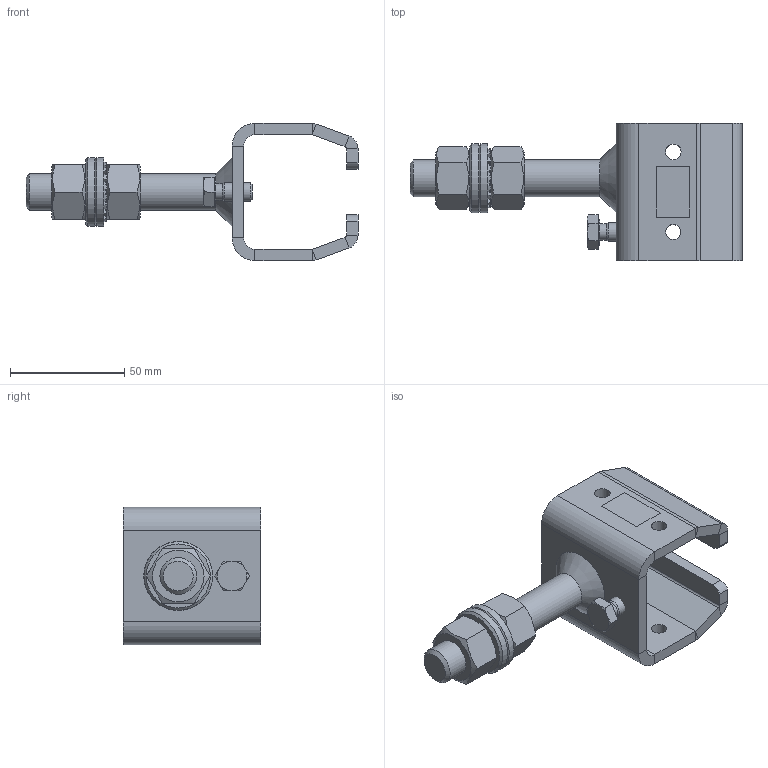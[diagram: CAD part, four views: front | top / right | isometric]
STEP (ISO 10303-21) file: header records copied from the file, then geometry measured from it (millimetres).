
FILE_DESCRIPTION(/* description */ ('Muffe H/S Nr.2'),/* implementation_level */ '2;1');
FILE_NAME(/* name */ 'Q:\sge-ma\Produktmanagement-STB\STB\Workspace\stp\010335520.stp',/* time_stamp */ '2015-04-23T07:44:06+02:00',/* author */ ('avschreier'),/* organization */ (''),/* preprocessor_version */ 'ST-DEVELOPER v15.6',/* originating_system */ 'Autodesk Inventor 2015',/* authorisation */ '');
FILE_SCHEMA (('CONFIG_CONTROL_DESIGN'));
Length unit declared in the file: millimetre
Products named in the file (8): 010335520_Schweißnähte; 000302234; 335140020; DIN_EN_ISO_4017-M8x16_en; DIN_6798-A_17_en; DIN_EN_ISO_4032-M16_en; DIN_6916-17_en; 010335520
Bounding box: 145 x 60 x 60 mm (x, y, z)
Volume: 85546.4 mm3; surface area: 38890 mm2
Topology: 9 solids, 9 shells, 252 faces, 628 edges, 397 vertices
Faces by surface type: plane 123, cylinder 106, cone 23
Full cylindrical faces by diameter (mm): 6.647 x3, 6.8 x3, 7.323 x1, 8 x1, 11.4 x1, 13.835 x2, 16 x2, 17 x3, 30 x2
Entity records: 7052 total; most frequent: DIRECTION 1258, CARTESIAN_POINT 1224, ORIENTED_EDGE 1116, EDGE_CURVE 558, AXIS2_PLACEMENT_3D 474, VERTEX_POINT 368, LINE 310, VECTOR 310
